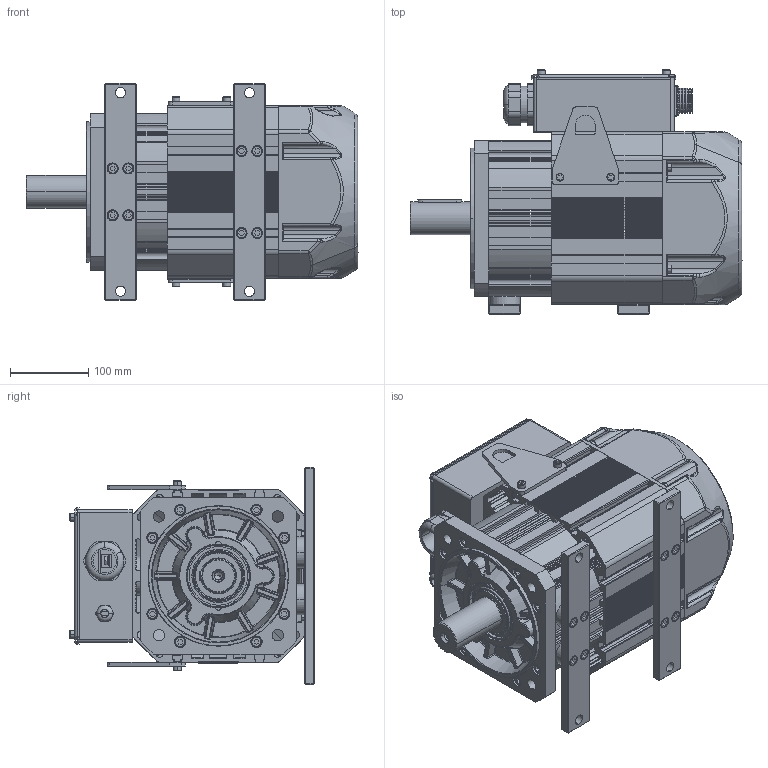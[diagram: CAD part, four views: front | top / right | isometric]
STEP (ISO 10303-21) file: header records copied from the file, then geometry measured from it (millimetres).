
FILE_DESCRIPTION((''),'2;1');
FILE_NAME('40___SW0001','2025-08-25T08:17:39',('0109502'),(''),'CREO PARAMETRIC BY PTC INC, 2019080','CREO PARAMETRIC BY PTC INC, 2019080','');
FILE_SCHEMA(('CONFIG_CONTROL_DESIGN'));
Products named in the file (1): 40___SW0001
Bounding box: 425 x 312.5 x 278.25 mm (x, y, z)
Surface area: 1359150.2 mm2 (no closed solid volume)
Topology: 0 solids, 168 shells, 3311 faces, 10942 edges, 7720 vertices
Faces by surface type: plane 1483, cylinder 1140, torus 273, bspline 204, cone 184, sphere 27
Entity records: 135207 total; most frequent: CARTESIAN_POINT 39630, DIRECTION 20278, ORIENTED_EDGE 18425, EDGE_CURVE 10922, VERTEX_POINT 7720, AXIS2_PLACEMENT_3D 7019, VECTOR 6240, LINE 6240
